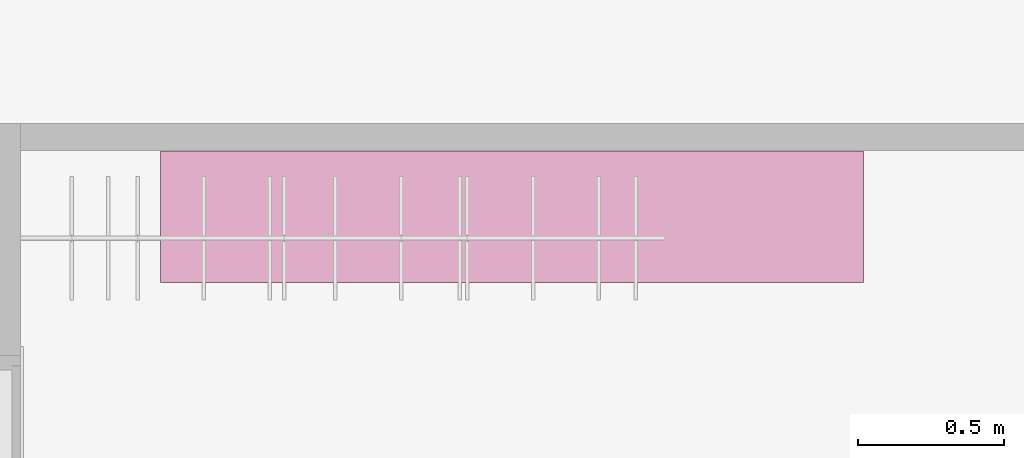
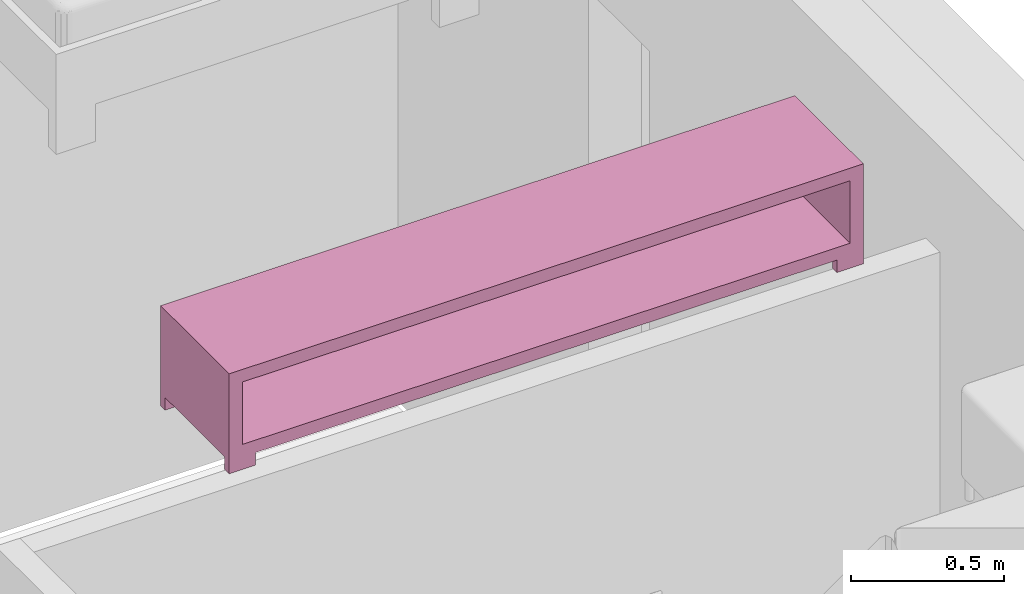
# One storey, part 35 of 68: 1 furnishing.
"""IFC2X3 building model written with IfcOpenShell, lengths in millimetres."""

import ifcopenshell
import ifcopenshell.guid

model = None  # the IFC model being written
_history = None  # IfcOwnerHistory: only IFC2X3 demands one
_inside = {}  # id of a spatial element -> (the spatial element, [elements in it])
_under = {}  # id of a project, library or spatial element -> (it, [spatial elements below it])
_declared = {}  # id of a project -> (the project, [libraries it declares])
_typed = {}  # id of a type object -> (the type object, [elements of that type])
_made_of = {}  # id of a material, layer set ... -> (it, [elements and type objects made of it])


def new_model(schema):
    """Start an empty IFC model of exactly this schema.

    Asked for "IFC4X3", IfcOpenShell would pick the latest addendum, in which some entities
    have other attributes; the version numbers below select the first issue.
    IFC2X3 requires an IfcOwnerHistory on every rooted entity: one is made here for all.
    """
    global model, _history
    if schema == "IFC4X3":
        model = ifcopenshell.file(schema_version=(4, 3, 0, 0))
    else:
        model = ifcopenshell.file(schema=schema)
    _inside.clear()
    _under.clear()
    _declared.clear()
    _typed.clear()
    _made_of.clear()
    _history = None
    if model.schema == "IFC2X3":
        org = make("IfcOrganization", Name="unknown")
        user = make(
            "IfcPersonAndOrganization",
            ThePerson=make("IfcPerson", FamilyName="unknown"),
            TheOrganization=org,
        )
        app = make(
            "IfcApplication",
            ApplicationDeveloper=org,
            Version="unknown",
            ApplicationFullName="unknown",
            ApplicationIdentifier="unknown",
        )
        _history = make(
            "IfcOwnerHistory",
            OwningUser=user,
            OwningApplication=app,
            ChangeAction="ADDED",
            CreationDate=0,
        )
    return model


def make(cls, **values):
    """One entity of the class cls with the attributes given. An attribute that is None is left unset."""
    return model.create_entity(
        cls, **{name: value for name, value in values.items() if value is not None}
    )


def entity(cls, *values):
    """Any entity or typed value of the class cls, its attributes in the order of the schema. None: left unset."""
    e = model.create_entity(cls)
    for i, value in enumerate(values):
        if value is not None:
            e[i] = value
    return e


def rooted(cls, **values):
    """An entity with a GlobalId (a new one), such as an element, a storey or a relation."""
    return make(cls, GlobalId=ifcopenshell.guid.new(), OwnerHistory=_history, **values)


def si_unit(unit_type, name, prefix=None):
    """IfcSIUnit, for example si_unit("LENGTHUNIT", "METRE", prefix="MILLI")."""
    return make("IfcSIUnit", UnitType=unit_type, Prefix=prefix, Name=name)


def converted_unit(unit_type, name, factor, base, dimensions=None, offset=None):
    """IfcConversionBasedUnit, such as the inch: factor (a typed value) times the base unit."""
    return make(
        "IfcConversionBasedUnit"
        if offset is None
        else "IfcConversionBasedUnitWithOffset",
        ConversionOffset=offset,
        Dimensions=None
        if dimensions is None
        else entity("IfcDimensionalExponents", *dimensions),
        UnitType=unit_type,
        Name=name,
        ConversionFactor=make(
            "IfcMeasureWithUnit", ValueComponent=factor, UnitComponent=base
        ),
    )


def assignment(units):
    """IfcUnitAssignment: the units of a project."""
    return None if units is None else make("IfcUnitAssignment", Units=units)


def point(xyz):
    """IfcCartesianPoint."""
    return None if xyz is None else make("IfcCartesianPoint", Coordinates=xyz)


def direction(xyz):
    """IfcDirection."""
    return None if xyz is None else make("IfcDirection", DirectionRatios=xyz)


def frame(location, z_axis=None, x_axis=None):
    """IfcAxis2Placement3D, a coordinate frame: its origin and axes. An axis left out is left unset."""
    return make(
        "IfcAxis2Placement3D",
        Location=point(location),
        Axis=direction(z_axis),
        RefDirection=direction(x_axis),
    )


def frame_2d(location, x_axis=None):
    """IfcAxis2Placement2D, a coordinate frame in the plane: its origin and x axis."""
    return make(
        "IfcAxis2Placement2D", Location=point(location), RefDirection=direction(x_axis)
    )


def origin():
    """The frame at (0, 0, 0) with its axes left unset."""
    return frame((0.0, 0.0, 0.0))


def origin_2d_with_axis():
    """The frame at (0, 0) in the plane with the x axis (1, 0) written out."""
    return frame_2d((0.0, 0.0), x_axis=(1.0, 0.0))


def place(relative_to, where):
    """IfcLocalPlacement: puts the frame where relative to a parent placement (None: the world)."""
    return make(
        "IfcLocalPlacement", PlacementRelTo=relative_to, RelativePlacement=where
    )


def context(
    kind, dimensions, precision=None, world=None, true_north=None, identifier=None
):
    """IfcGeometricRepresentationContext, for example the 3D "Model" context."""
    return make(
        "IfcGeometricRepresentationContext",
        ContextIdentifier=identifier,
        ContextType=kind,
        CoordinateSpaceDimension=dimensions,
        Precision=precision,
        WorldCoordinateSystem=world,
        TrueNorth=true_north,
    )


def subcontext(parent, identifier, kind, view, scale=None):
    """IfcGeometricRepresentationSubContext, for example "Body" below "Model"."""
    return make(
        "IfcGeometricRepresentationSubContext",
        ContextIdentifier=identifier,
        ContextType=kind,
        ParentContext=parent,
        TargetScale=scale,
        TargetView=view,
    )


def project(units=None, contexts=None):
    """IfcProject with its units and contexts."""
    return rooted(
        "IfcProject",
        Name="project",
        RepresentationContexts=contexts,
        UnitsInContext=assignment(units),
    )


def spatial(cls, under=None, at=None, **own):
    """A site, building, storey or space (cls), placed at a placement, below another one or the project."""
    s = rooted(cls, ObjectPlacement=at, **own)
    if under is not None:
        _under.setdefault(under.id(), (under, []))[1].append(s)
    return s


def polyline(points):
    """IfcPolyline through the points."""
    return make("IfcPolyline", Points=[point(p) for p in points])


def profile(cls, at=None, kind="AREA", **sizes):
    """A parametric profile (cls). Its sizes go by their IFC names, for example OverallWidth=200.0."""
    return make(cls, ProfileType=kind, Position=at, **sizes)


def rectangle(**sizes):
    """IfcRectangleProfileDef."""
    return profile("IfcRectangleProfileDef", **sizes)


def outline(outer, holes=None, kind="AREA"):
    """IfcArbitraryClosedProfileDef: a profile drawn as a closed curve; with holes, ...WithVoids."""
    if holes is None:
        return make("IfcArbitraryClosedProfileDef", ProfileType=kind, OuterCurve=outer)
    return make(
        "IfcArbitraryProfileDefWithVoids",
        ProfileType=kind,
        OuterCurve=outer,
        InnerCurves=holes,
    )


def extrude(swept, where, along, depth):
    """IfcExtrudedAreaSolid: the profile swept, set in the frame where, extruded along a direction by depth."""
    return make(
        "IfcExtrudedAreaSolid",
        SweptArea=swept,
        Position=where,
        ExtrudedDirection=direction(along),
        Depth=depth,
    )


def shape(context_of_items, identifier, shape_type, items):
    """IfcShapeRepresentation: the items that make up one representation, for example the "Body"."""
    return make(
        "IfcShapeRepresentation",
        ContextOfItems=context_of_items,
        RepresentationIdentifier=identifier,
        RepresentationType=shape_type,
        Items=items,
    )


def source(mapping_origin, context_of_items, identifier, shape_type, items):
    """IfcRepresentationMap: a shape defined once, which mapped items show again and again."""
    return make(
        "IfcRepresentationMap",
        MappingOrigin=mapping_origin,
        MappedRepresentation=shape(context_of_items, identifier, shape_type, items),
    )


def transform(
    local_origin,
    x_axis=None,
    y_axis=None,
    z_axis=None,
    scale=None,
    scale2=None,
    scale3=None,
    uniform=True,
):
    """IfcCartesianTransformationOperator3D, or its non-uniform kind. x_axis, y_axis, z_axis: its Axis1, 2, 3."""
    if uniform:
        return make(
            "IfcCartesianTransformationOperator3D",
            Axis1=direction(x_axis),
            Axis2=direction(y_axis),
            LocalOrigin=point(local_origin),
            Scale=scale,
            Axis3=direction(z_axis),
        )
    return make(
        "IfcCartesianTransformationOperator3DnonUniform",
        Axis1=direction(x_axis),
        Axis2=direction(y_axis),
        LocalOrigin=point(local_origin),
        Scale=scale,
        Axis3=direction(z_axis),
        Scale2=scale2,
        Scale3=scale3,
    )


def mapped(mapping_source, mapping_target):
    """IfcMappedItem: shows the shape of a source again, moved by a transform."""
    return make(
        "IfcMappedItem", MappingSource=mapping_source, MappingTarget=mapping_target
    )


def material(Name=None, Category=None):
    """IfcMaterial."""
    return make("IfcMaterial", Name=Name, Category=Category)


def made_of(thing, what):
    """Note that an element or type object is made of a material, layer set ...; save() writes the relation."""
    if what is not None:
        _made_of.setdefault(what.id(), (what, []))[1].append(thing)
    return thing


def type_object(cls, material=None, **own):
    """A type object (cls), such as IfcWallType, which elements share."""
    return made_of(rooted(cls, **own), material)


def type_shapes(of_type, sources):
    """Give a type object the sources (RepresentationMaps) that its elements show as mapped items."""
    of_type.RepresentationMaps = sources


def element(
    cls,
    number,
    at=None,
    inside=None,
    cuts=None,
    type_object=None,
    material=None,
    context=None,
    identifier="Body",
    shape_type=None,
    held_by="IfcProductDefinitionShape",
    body=None,
    shapes=None,
    **own,
):
    """One element of the class cls, such as IfcWall. Its Tag is "e" and its number.

    at: its placement. inside: the storey or other place that contains it. cuts: it is an
    opening in that element (IfcRelVoidsElement). A single representation is given by context,
    identifier, shape_type and body (its items); several are given by shapes. held_by: the class
    of the entity that holds the representations. save() writes the other relations.
    """
    e = rooted(cls, Tag="e%d" % number, ObjectPlacement=at, **own)
    if body is not None:
        shapes = [shape(context, identifier, shape_type, body)]
    if shapes is not None:
        e.Representation = make(held_by, Representations=shapes)
    if inside is not None:
        _inside.setdefault(inside.id(), (inside, []))[1].append(e)
    if cuts is not None:
        rooted(
            "IfcRelVoidsElement", RelatingBuildingElement=cuts, RelatedOpeningElement=e
        )
    if type_object is not None:
        _typed.setdefault(type_object.id(), (type_object, []))[1].append(e)
    return made_of(e, material)


def aggregate(whole, parts):
    """IfcRelAggregates: a whole, such as a stair, and the parts it consists of."""
    return rooted("IfcRelAggregates", RelatingObject=whole, RelatedObjects=parts)


def save(model, path):
    """Write the relations noted so far, then the file.

    IfcRelAggregates (storeys below a building ...), IfcRelContainedInSpatialStructure (elements
    in a storey), IfcRelDefinesByType, IfcRelAssociatesMaterial and IfcRelDeclares: one each for
    every whole, place, type object, material and project.
    """
    for whole, parts in _under.values():
        aggregate(whole, parts)
    for where, things in _inside.values():
        rooted(
            "IfcRelContainedInSpatialStructure",
            RelatedElements=things,
            RelatingStructure=where,
        )
    for kind, things in _typed.values():
        rooted("IfcRelDefinesByType", RelatedObjects=things, RelatingType=kind)
    for what, things in _made_of.values():
        rooted("IfcRelAssociatesMaterial", RelatedObjects=things, RelatingMaterial=what)
    for by, libraries in _declared.values():
        rooted("IfcRelDeclares", RelatingContext=by, RelatedDefinitions=libraries)
    model.write(path)


model = new_model("IFC2X3")

# Units and contexts
model_context = context("Model", 3, precision=0.01, world=origin(), true_north=direction((6.123233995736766e-17, 1.0)))
plan_context = context("Plan", 3, precision=0.01, world=origin(), true_north=direction((6.123233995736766e-17, 1.0)))
body_context = subcontext(model_context, "Body", "Model", "MODEL_VIEW")
ifc_project = project(units=[si_unit("LENGTHUNIT", "METRE", prefix="MILLI"), converted_unit("PLANEANGLEUNIT", "DEGREE", entity("IfcPlaneAngleMeasure", 0.017453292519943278), si_unit("PLANEANGLEUNIT", "RADIAN"), dimensions=[0, 0, 0, 0, 0, 0, 0]), si_unit("AREAUNIT", "SQUARE_METRE")], contexts=[model_context, plan_context])

# Site, building, storey, space
site_placement = place(None, origin())
site = spatial("IfcSite", under=ifc_project, at=site_placement, Name="Default", CompositionType="ELEMENT")
building_placement = place(site_placement, origin())
building = spatial("IfcBuilding", under=site, at=building_placement, CompositionType="ELEMENT")
storey_placement = place(building_placement, frame((0.0, 0.0, 6295.0)))
storey = spatial("IfcBuildingStorey", under=building, at=storey_placement, Name="3K", CompositionType="ELEMENT", Elevation=6294.999999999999)
space_placement = place(storey_placement, origin())
space = spatial("IfcSpace", under=storey, at=space_placement, Name="3-7.3", CompositionType="ELEMENT", InteriorOrExteriorSpace="INTERNAL")

# Furnishing
ifc_material = material(Name="<Unnamed>")
furniture_type = type_object("IfcFurnitureType", Name="HR_Furniture_TV-stand_Generic_v2016-05-13:Default", AssemblyPlace="NOTDEFINED", material=ifc_material)
shared_shape = source(origin(), body_context, "Body", "SweptSolid", [
    extrude(rectangle(XDim=99.99999999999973, YDim=29.999999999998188, at=origin_2d_with_axis()), frame((1150.0, 15.0, 0.0), z_axis=(0.0, 0.0, 1.0), x_axis=(-1.0, 0.0, 0.0)), (0.0, 0.0, 1.0), 49.99999999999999),
    extrude(rectangle(XDim=30.000000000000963, YDim=99.99999999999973, at=frame_2d((-3.375077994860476e-14, 0.0), x_axis=(1.0, 0.0))), frame((1150.0, 435.0, 0.0), z_axis=(0.0, 0.0, 1.0), x_axis=(0.0, 1.0, 0.0)), (0.0, 0.0, 1.0), 49.99999999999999),
    extrude(rectangle(XDim=30.000000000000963, YDim=99.99999999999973, at=frame_2d((-3.375077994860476e-14, 0.0), x_axis=(1.0, 0.0))), frame((-1150.0, 435.0, 0.0), z_axis=(0.0, 0.0, 1.0), x_axis=(0.0, 1.0, 0.0)), (0.0, 0.0, 1.0), 49.99999999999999),
    extrude(rectangle(XDim=99.99999999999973, YDim=29.999999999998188, at=origin_2d_with_axis()), frame((-1150.0, 15.0, 0.0), z_axis=(0.0, 0.0, 1.0), x_axis=(-1.0, 0.0, 0.0)), (0.0, 0.0, 1.0), 49.99999999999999),
    extrude(outline(polyline([(-175.0, -1200.0), (175.0, -1200.0), (175.0, 1200.0), (-175.0, 1200.0), (-175.0, -1200.0)]), holes=[polyline([(-125.0, -1150.0), (-125.0, 1150.0), (125.0, 1150.0), (125.0, -1150.0), (-125.0, -1150.0)])]), frame((0.0, 0.0, 225.0), z_axis=(0.0, 1.0, 0.0), x_axis=(0.0, 0.0, -1.0)), (0.0, 0.0, 1.0), 449.9999999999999),
])
type_shapes(furniture_type, [shared_shape])
furnishing_placement = place(space_placement, frame((15150.0, 11846.0, 3170.000076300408), z_axis=(0.0, 0.0, 1.0), x_axis=(-1.0, 0.0, 0.0)))
element("IfcFurnishingElement", 1, at=furnishing_placement, inside=space, type_object=furniture_type, material=ifc_material, Name="HR_Furniture_TV-stand_Generic_v2016-05-13:Default", ObjectType="HR_Furniture_TV-stand_Generic_v2016-05-13:Default", context=body_context, shape_type="MappedRepresentation", body=[
    mapped(shared_shape, transform((0.0, 0.0, 0.0), scale=1.0)),
])

save(model, "model.ifc")
